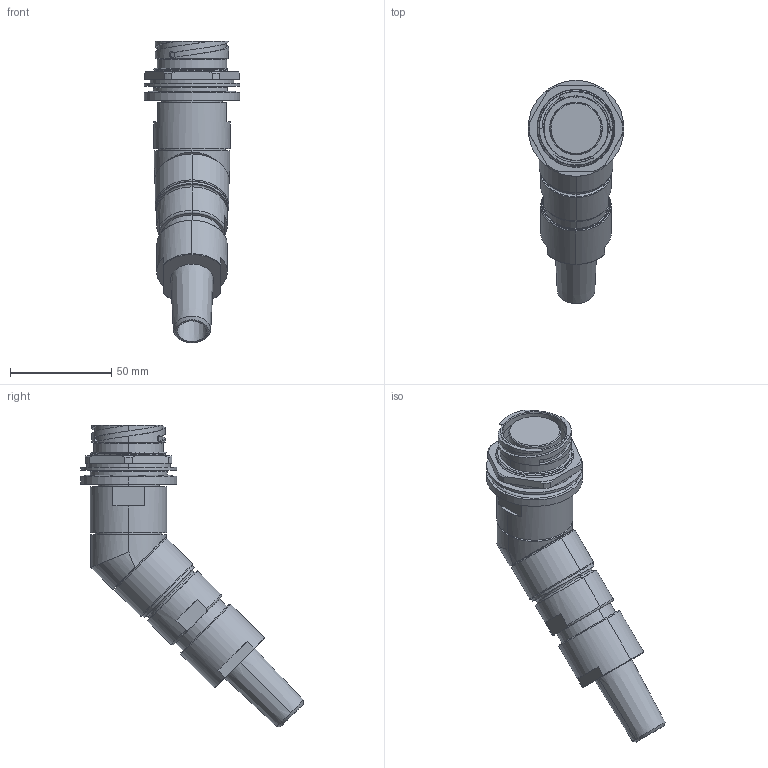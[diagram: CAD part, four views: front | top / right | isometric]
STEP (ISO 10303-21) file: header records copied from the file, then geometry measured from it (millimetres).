
FILE_DESCRIPTION (( 'STEP AP214' ), '1' );
FILE_NAME ('QLINK45-RJBX-21XX-SXXX-RA.STEP', '2025-12-17T16:25:59', ( '' ), ( '' ), 'SwSTEP 2.0', 'SolidWorks 2024', '' );
FILE_SCHEMA (( 'AUTOMOTIVE_DESIGN' ));
Length unit declared in the file: millimetre
Products named in the file (1): QLINK45-RJBX-21XX-SXXX-RA
Bounding box: 47.37 x 109.99 x 148.88 mm (x, y, z)
Volume: 145554 mm3; surface area: 35737.6 mm2
Topology: 2 solids, 2 shells, 275 faces, 702 edges, 449 vertices
Faces by surface type: cylinder 87, plane 62, cone 53, bspline 50, torus 23
Entity records: 21728 total; most frequent: CARTESIAN_POINT 15620, ORIENTED_EDGE 1404, DIRECTION 1145, EDGE_CURVE 702, AXIS2_PLACEMENT_3D 478, VERTEX_POINT 449, EDGE_LOOP 303, ADVANCED_FACE 275
